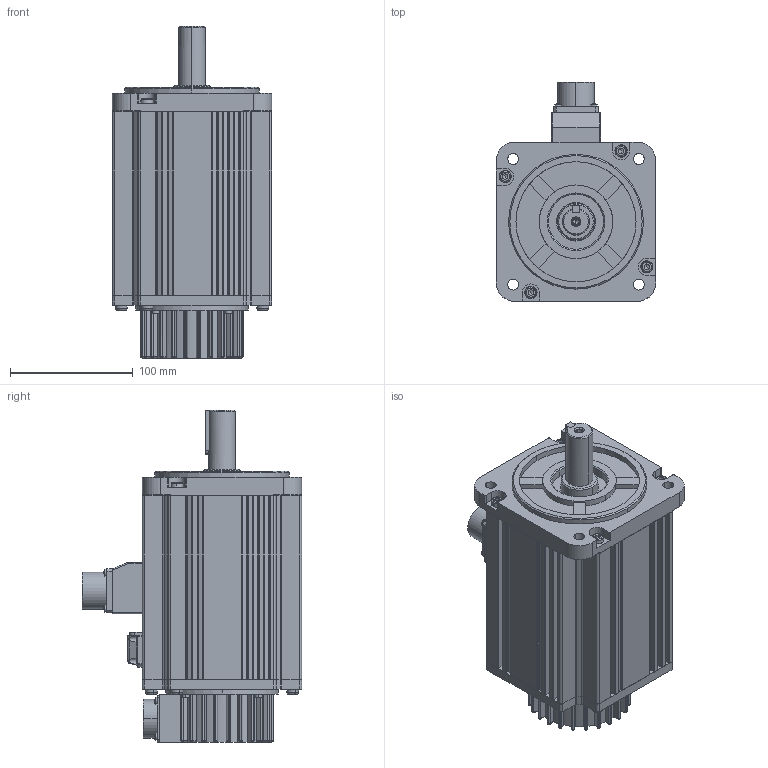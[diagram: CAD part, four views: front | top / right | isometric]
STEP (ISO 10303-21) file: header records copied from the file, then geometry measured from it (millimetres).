
FILE_DESCRIPTION (( 'STEP AP203' ), '1' );
FILE_NAME ('R130-1000+brake.STEP', '2019-08-19T02:01:40', ( '1' ), ( 'MideaGroup IT' ), 'SwSTEP 2.0', 'SolidWorks 2012', '' );
FILE_SCHEMA (( 'CONFIG_CONTROL_DESIGN' ));
Length unit declared in the file: millimetre
Products named in the file (20): R130-1000+brake; 雄薯盄揤裔郪璃; M2.5X5_GB_CROSS_SCREWS_TYPE3 M2.5X8-8-N; 雄薯盄; 雄薯盄躇猾菜; 雄薯盄揤裔; R130瑩; M3X10_GB_CROSS_SCREWS_TYPE1 M3X10-10  H type-N; M3X28_GB_FASTENER_SCREWS_HSHCS M3X25-C; M6X16-16-N_GB_HEXAGON_TYPE21 M6X16-16-N; ヶ傷裔-001; 萇埭盄瑤脣; 晤鎢ん瑤脣; 綴傷裔-002; 130-綴裔; 130-80B-瑤脣; 蛌赽郪璃-001; deep groove ball bearings gb_Rolling bearings 6206 GB 276-94; 130-85粣-001; 儂褲-001
Assembly tree (39 placements, depth 3):
  R130-1000+brake
    儂褲-001
    蛌赽郪璃-001
      130-85粣-001
      deep groove ball bearings gb_Rolling bearings 6206 GB 276-94
    130-80B-瑤脣
    130-綴裔
    綴傷裔-002
    晤鎢ん瑤脣
    萇埭盄瑤脣
    ヶ傷裔-001
    M6X16-16-N_GB_HEXAGON_TYPE21 M6X16-16-N  x8
    M3X28_GB_FASTENER_SCREWS_HSHCS M3X25-C  x4
    M3X10_GB_CROSS_SCREWS_TYPE1 M3X10-10  H type-N  x8
    R130瑩
    雄薯盄揤裔郪璃
      雄薯盄揤裔
      雄薯盄躇猾菜
      雄薯盄
      M2.5X5_GB_CROSS_SCREWS_TYPE3 M2.5X8-8-N  x4
Bounding box: 130 x 179 x 271 mm (x, y, z)
Volume: 1071947.4 mm3; surface area: 373869.2 mm2
Topology: 40 solids, 40 shells, 1803 faces, 4876 edges, 3133 vertices
Faces by surface type: cylinder 803, plane 670, sphere 140, torus 98, cone 52, bspline 40
Entity records: 49799 total; most frequent: CARTESIAN_POINT 11758, DIRECTION 7757, ORIENTED_EDGE 7312, EDGE_CURVE 3656, AXIS2_PLACEMENT_3D 3066, VERTEX_POINT 2371, CIRCLE 1647, LINE 1625
